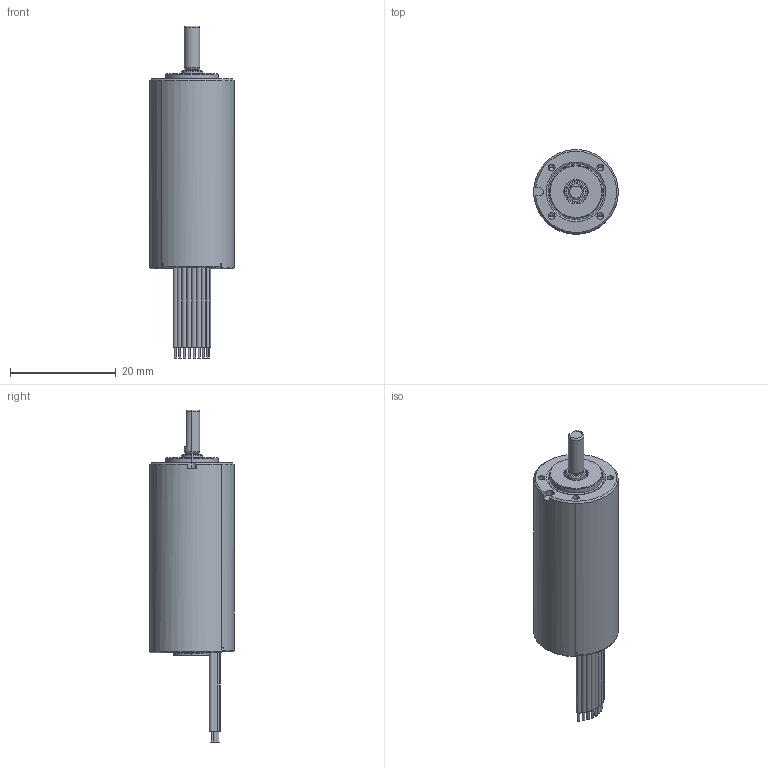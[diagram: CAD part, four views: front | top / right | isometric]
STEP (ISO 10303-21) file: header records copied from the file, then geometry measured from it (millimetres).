
FILE_DESCRIPTION (( 'STEP AP203' ), '1' );
FILE_NAME ('○TB16M------- -.STEP', '2026-09-09T06:53:18', ( '' ), ( '' ), 'SwSTEP 2.0', 'SolidWorks 2026', '' );
FILE_SCHEMA (( 'CONFIG_CONTROL_DESIGN' ));
Length unit declared in the file: millimetre
Products named in the file (1): ○TB16M------- -
Bounding box: 16 x 15.99 x 62.9 mm (x, y, z)
Volume: 7442.4 mm3; surface area: 2739.9 mm2
Topology: 1 solids, 1 shells, 175 faces, 405 edges, 249 vertices
Faces by surface type: cylinder 86, plane 45, torus 22, cone 22
Entity records: 5102 total; most frequent: DIRECTION 971, CARTESIAN_POINT 905, ORIENTED_EDGE 794, AXIS2_PLACEMENT_3D 413, EDGE_CURVE 397, VERTEX_POINT 249, CIRCLE 237, EDGE_LOOP 200
